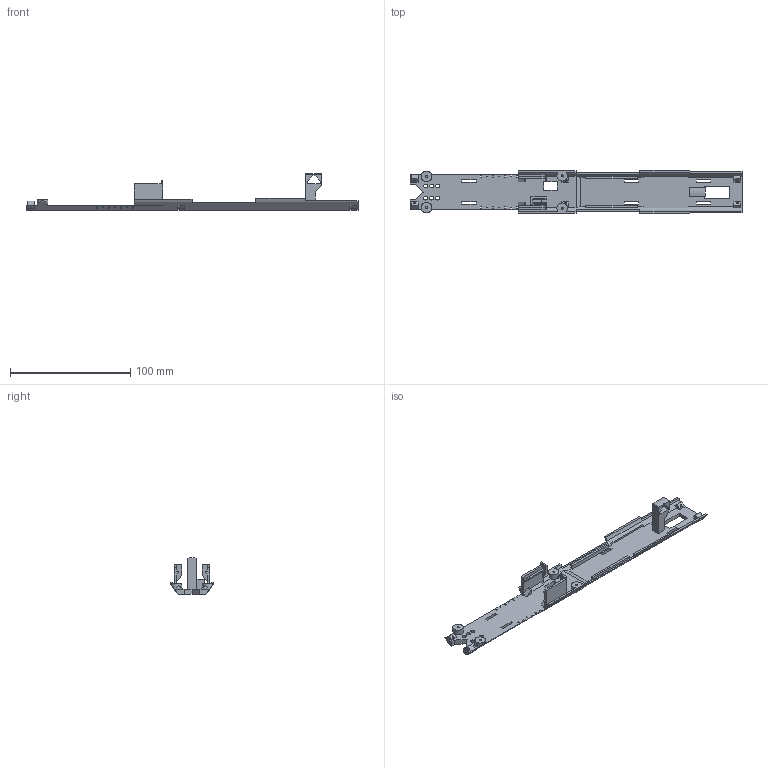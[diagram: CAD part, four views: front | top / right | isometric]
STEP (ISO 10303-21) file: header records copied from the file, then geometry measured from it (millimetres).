
FILE_DESCRIPTION(('SkyG Speed 90B - revision C6B-23 - 2026-10-17','TR-equipment-tray'),'2;1');
FILE_NAME('TR-equipment-tray_C6B-23','2026-10-17T13:26:40',('Author'),( 'Open CASCADE'),'Open CASCADE STEP processor 7.9','Open CASCADE 7.9' ,'Unknown');
FILE_SCHEMA(('AUTOMOTIVE_DESIGN { 1 0 10303 214 1 1 1 1 }'));
Length unit declared in the file: millimetre
Products named in the file (1): TR-equipment-tray C6B-23
Bounding box: 276 x 36.14 x 30.55 mm (x, y, z)
Volume: 33139.3 mm3; surface area: 26581 mm2
Topology: 1 solids, 1 shells, 341 faces, 1019 edges, 681 vertices
Faces by surface type: plane 288, cylinder 53
Full cylindrical faces by diameter (mm): 1.6 x4, 3.3 x6, 8.8 x2
Entity records: 25431 total; most frequent: CARTESIAN_POINT 6554, DIRECTION 3030, ORIENTED_EDGE 2038, PCURVE 2038, DEFINITIONAL_REPRESENTATION 2038, LINE 1961, VECTOR 1961, EDGE_CURVE 1019
